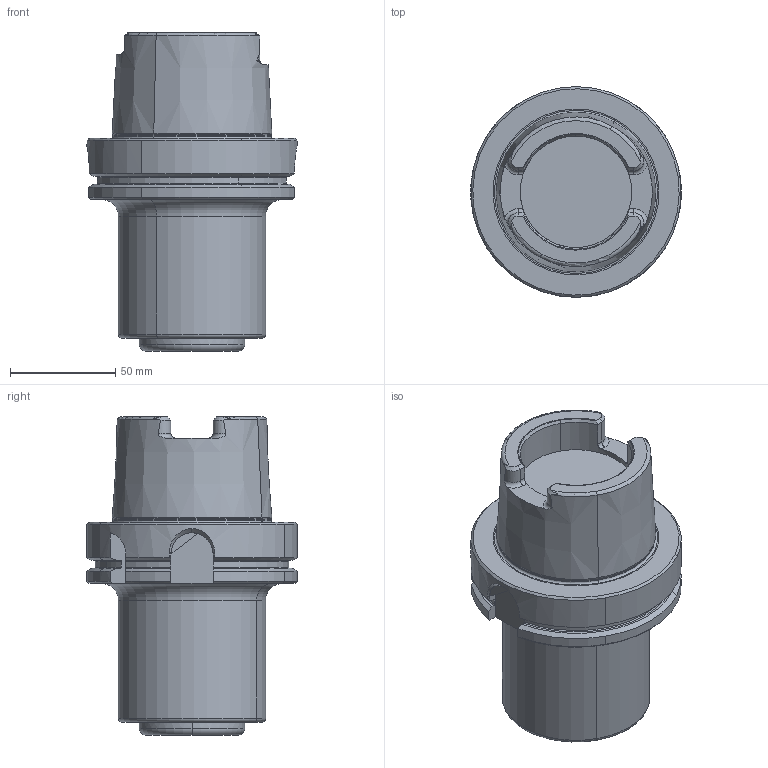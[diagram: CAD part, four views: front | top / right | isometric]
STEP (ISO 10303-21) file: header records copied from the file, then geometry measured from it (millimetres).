
FILE_DESCRIPTION(('CATIA V5 STEP','CAx-IF Rec.Pracs.--- Model Styling and Organization---1.2---2011-12-15'),'2;1');
FILE_NAME('\\nas01\drv1\utils\eitdev\rte\eit\transmagicconvert\db\out\4502172 L.stp','2014-03-17T13:42:59+00:00',('none'),('none'),'CATIA Version 5 Release 21 SP 5 (IN-10)','CATIA V5 STEP AP214','none');
FILE_SCHEMA(('AUTOMOTIVE_DESIGN { 1 0 10303 214 1 1 1 1 }'));
Length unit declared in the file: millimetre
Products named in the file (1): 60966334_0 Holder-Tool HSK A 100 ER40 SHORT
Bounding box: 100 x 100 x 151 mm (x, y, z)
Volume: 651834.2 mm3; surface area: 54059 mm2
Topology: 1 solids, 1 shells, 174 faces, 445 edges, 277 vertices
Faces by surface type: plane 55, cylinder 49, cone 34, torus 32, bspline 2, extrusion 2
Entity records: 5361 total; most frequent: CARTESIAN_POINT 1690, ORIENTED_EDGE 890, DIRECTION 525, EDGE_CURVE 445, AXIS2_PLACEMENT_3D 289, VERTEX_POINT 277, CIRCLE 189, EDGE_LOOP 178
